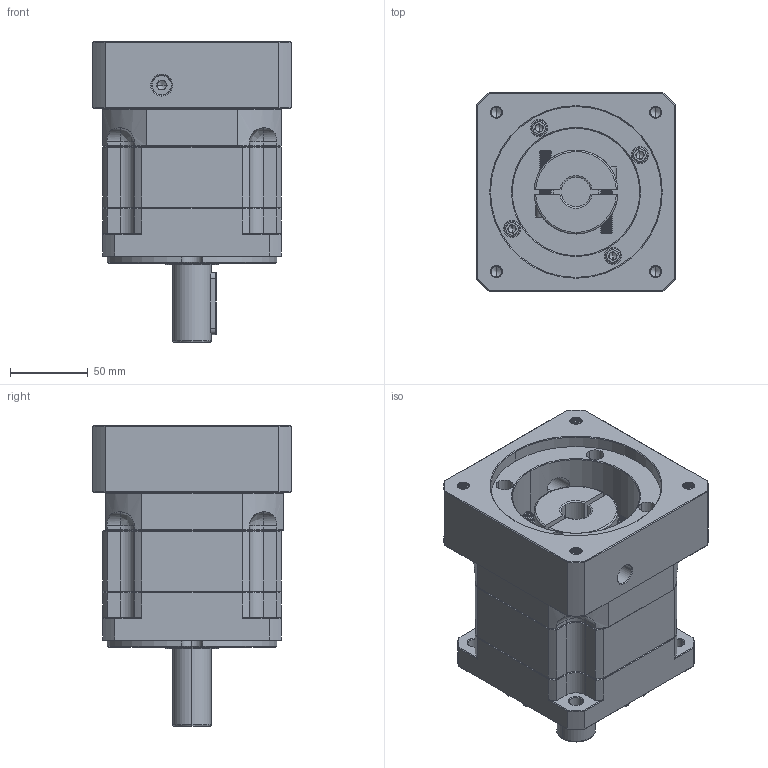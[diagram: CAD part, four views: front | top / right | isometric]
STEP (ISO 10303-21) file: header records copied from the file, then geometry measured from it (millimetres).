
FILE_DESCRIPTION (( 'STEP AP214' ), '1' );
FILE_NAME ('ZB115A-D25-L1-P2-19-110-145-M8.step', '2023-08-26T06:20:21', ( '' ), ( '' ), 'SwSTEP 2.0', 'SolidWorks 2016', '' );
FILE_SCHEMA (( 'AUTOMOTIVE_DESIGN' ));
Length unit declared in the file: millimetre
Products named in the file (1): ZB115A-D25-L1-P2-19-110-145-M8
Bounding box: 128 x 128 x 193.5 mm (x, y, z)
Volume: 1613831.5 mm3; surface area: 178045.8 mm2
Topology: 6 solids, 6 shells, 2391 faces, 6281 edges, 3989 vertices
Faces by surface type: plane 1143, cylinder 439, bspline 423, cone 366, torus 20
Entity records: 128991 total; most frequent: CARTESIAN_POINT 47329, ORIENTED_EDGE 12494, DIRECTION 9884, EDGE_CURVE 6247, VECTOR 3994, LINE 3994, VERTEX_POINT 3989, AXIS2_PLACEMENT_3D 2945
